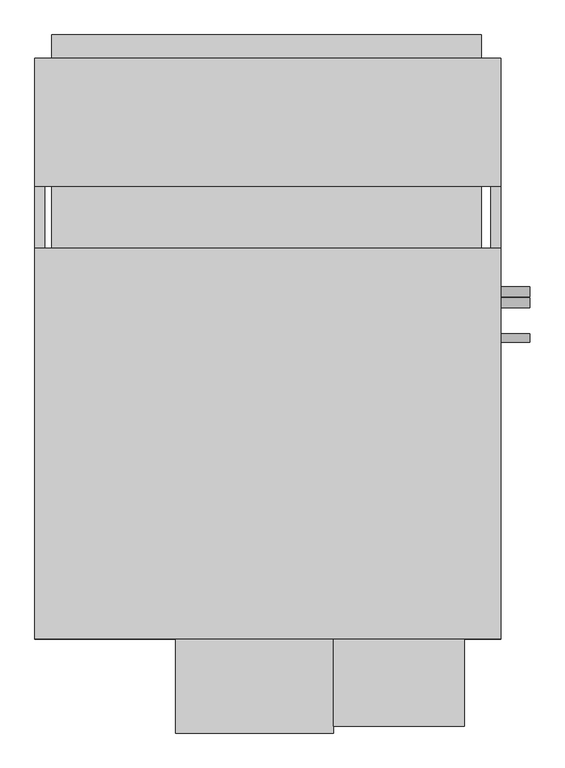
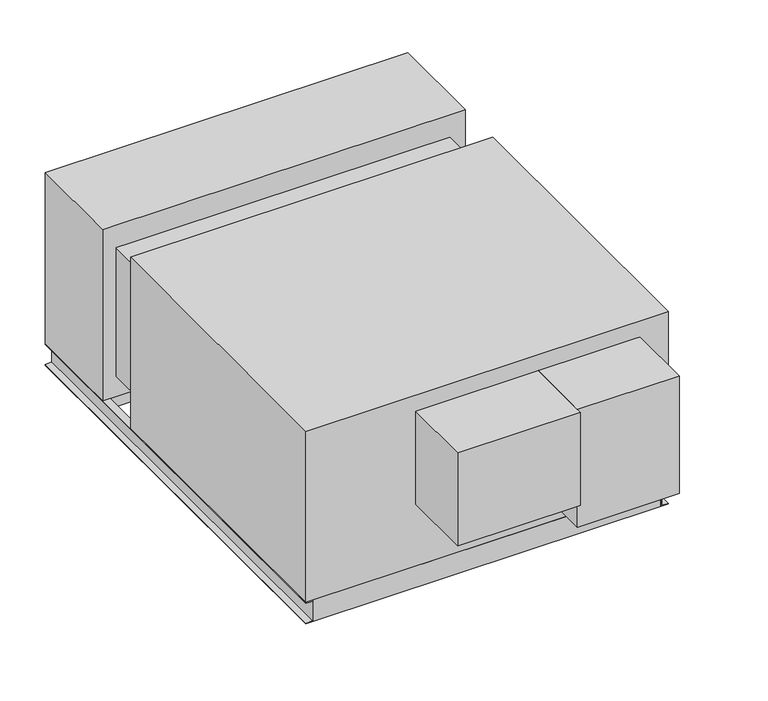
"""IFC4 building model written with IfcOpenShell, lengths in millimetres: proxy geometry, Horizontal_Direct_Drive_Blower_Coil_Unit_-_42DHA_-_CARRIER_-_2-Pipe_Cool-EHeat_NFilterR_W-MixingBox_RH_2022 : Size 20 - 460v/60Hz/3Ph - 8 Row 19.9kW LH."""

from ifc_helpers import new_model, si_unit, point, frame, frame_2d, origin, place, context, project, spatial, polyline, circle_curve, trimmed, segment, composite_curve, outline, extrude, source, transform, mapped, element, save


def mechanical_equipment_e52b0f82(model_context):
    return source(origin(), model_context, "Body", "SweptSolid", [
        extrude(outline(polyline([(101.6, 887.095), (101.6, 683.895), (-1022.35, 683.895), (-1022.35, 887.095), (101.6, 887.095)])), frame((0.0, 0.0, -670.56), z_axis=(0.0, 0.0, 1.0), x_axis=(1.0, 0.0, 0.0)), (0.0, 0.0, 1.0), 60.96),
        extrude(outline(polyline([(-1022.35, 1049.655), (101.6, 1049.655), (101.6, 988.695), (-1022.35, 988.695), (-1022.35, 1049.655)])), frame((0.0, 0.0, -279.4), z_axis=(0.0, 0.0, 1.0), x_axis=(1.0, 0.0, 0.0)), (0.0, 0.0, 1.0), 203.2),
        extrude(outline(polyline([(152.4, 988.695), (152.4, 654.05), (-1066.8, 654.05), (-1066.8, 988.695), (152.4, 988.695)])), frame((0.0, 0.0, -609.6), z_axis=(0.0, 0.0, 1.0), x_axis=(1.0, 0.0, 0.0)), (0.0, 0.0, 1.0), 609.6),
        extrude(outline(polyline([(127.0, -504.825), (127.0, -530.225), (-1041.4, -530.225), (-1041.4, -504.825), (127.0, -504.825)])), frame((0.0, 0.0, -685.8), z_axis=(0.0, 0.0, 1.0), x_axis=(1.0, 0.0, 0.0)), (0.0, 0.0, 1.0), 76.2),
        extrude(outline(polyline([(127.0, 988.695), (127.0, 963.295), (-1041.4, 963.295), (-1041.4, 988.695), (127.0, 988.695)])), frame((0.0, 0.0, -685.8), z_axis=(0.0, 0.0, 1.0), x_axis=(1.0, 0.0, 0.0)), (0.0, 0.0, 1.0), 76.2),
        extrude(outline(polyline([(-609.6, -1041.4), (-609.6, -1066.8), (-612.775, -1066.8), (-612.775, -1044.575), (-682.625, -1044.575), (-682.625, -1066.8), (-685.8, -1066.8), (-685.8, -1041.4), (-609.6, -1041.4)])), frame((0.0, -530.225, 0.0), z_axis=(0.0, 1.0, 0.0), x_axis=(0.0, 0.0, 1.0)), (0.0, 0.0, 1.0), 1518.92),
        extrude(outline(polyline([(-609.6, 127.0), (-685.8, 127.0), (-685.8, 152.4), (-682.625, 152.4), (-682.625, 130.175), (-612.775, 130.175), (-612.775, 152.4), (-609.6, 152.4), (-609.6, 127.0)])), frame((0.0, -530.225, 0.0), z_axis=(0.0, 1.0, 0.0), x_axis=(0.0, 0.0, 1.0)), (0.0, 0.0, 1.0), 1518.92),
        extrude(outline(composite_curve([segment(trimmed(circle_curve(frame_2d((377.825, -177.8)), 12.7), [point((390.525, -177.8))], [point((365.125, -177.8))], False, "CARTESIAN"), True, "CONTINUOUS"), segment(trimmed(circle_curve(frame_2d((377.825, -177.8)), 12.7), [point((365.125, -177.8))], [point((390.525, -177.8))], False, "CARTESIAN"), True, "CONTINUOUS")], self_intersect=False)), frame((152.4, 0.0, 0.0), z_axis=(1.0, 0.0, 0.0), x_axis=(0.0, 1.0, 0.0)), (0.0, 0.0, 1.0), 76.2),
        extrude(outline(composite_curve([segment(trimmed(circle_curve(frame_2d((348.9715397, -482.6)), 12.7), [point((361.6715397, -482.6))], [point((336.2715397, -482.6))], False, "CARTESIAN"), True, "CONTINUOUS"), segment(trimmed(circle_curve(frame_2d((348.9715397, -482.6)), 12.7), [point((336.2715397, -482.6))], [point((361.6715397, -482.6))], False, "CARTESIAN"), True, "CONTINUOUS")], self_intersect=False)), frame((152.4, 0.0, 0.0), z_axis=(1.0, 0.0, 0.0), x_axis=(0.0, 1.0, 0.0)), (0.0, 0.0, 1.0), 76.2),
        extrude(outline(composite_curve([segment(trimmed(circle_curve(frame_2d((257.175, -565.15)), 11.1125), [point((268.2875, -565.15))], [point((246.0625, -565.15))], False, "CARTESIAN"), True, "CONTINUOUS"), segment(trimmed(circle_curve(frame_2d((257.175, -565.15)), 11.1125), [point((246.0625, -565.15))], [point((268.2875, -565.15))], False, "CARTESIAN"), True, "CONTINUOUS")], self_intersect=False)), frame((152.4, 0.0, 0.0), z_axis=(1.0, 0.0, 0.0), x_axis=(0.0, 1.0, 0.0)), (0.0, 0.0, 1.0), 76.2),
        extrude(outline(polyline([(152.4, 492.125), (152.4, -530.225), (-1066.8, -530.225), (-1066.8, 492.125), (152.4, 492.125)])), frame((0.0, 0.0, -609.6), z_axis=(0.0, 0.0, 1.0), x_axis=(1.0, 0.0, 0.0)), (0.0, 0.0, 1.0), 609.6),
        extrude(outline(polyline([(57.15, -758.825), (-285.75, -758.825), (-285.75, -530.225), (57.15, -530.225), (57.15, -758.825)])), frame((0.0, 0.0, -476.25), z_axis=(0.0, 0.0, 1.0), x_axis=(1.0, 0.0, 0.0)), (0.0, 0.0, 1.0), 419.1),
        extrude(outline(polyline([(-1022.35, 654.05), (101.6, 654.05), (101.6, 492.125), (-1022.35, 492.125), (-1022.35, 654.05)])), frame((0.0, 0.0, -536.575), z_axis=(0.0, 0.0, 1.0), x_axis=(1.0, 0.0, 0.0)), (0.0, 0.0, 1.0), 457.2),
        extrude(outline(polyline([(-285.75, -776.2875), (-698.5, -776.2875), (-698.5, -530.225), (-285.75, -530.225), (-285.75, -776.2875)])), frame((0.0, 0.0, -387.35), z_axis=(0.0, 0.0, 1.0), x_axis=(1.0, 0.0, 0.0)), (0.0, 0.0, 1.0), 330.2),
    ])


if __name__ == "__main__":
    model = new_model("IFC4")
    model_context = context("Model", 3, world=origin())
    ifc_project = project(units=[si_unit("LENGTHUNIT", "METRE", prefix="MILLI")], contexts=[model_context])
    site = spatial("IfcSite", under=ifc_project)
    building = spatial("IfcBuilding", under=site)
    placement = place(None, origin())
    mechanical_equipment_shape = mechanical_equipment_e52b0f82(model_context)
    element("IfcBuildingElementProxy", 1, Name="Horizontal_Direct_Drive_Blower_Coil_Unit_-_42DHA_-_CARRIER_-_2-Pipe_Cool-EHeat_NFilterR_W-MixingBox_RH_2022 : Size 20 - 460v/60Hz/3Ph - 8 Row 19.9kW LH", ObjectType="Horizontal_Direct_Drive_Blower_Coil_Unit_-_42DHA_-_CARRIER_-_2-Pipe_Cool-EHeat_NFilterR_W-MixingBox_RH_2022 : Size 20 - 460v/60Hz/3Ph - 8 Row 19.9kW LH", at=placement, inside=building, context=model_context, shape_type="MappedRepresentation", body=[
        mapped(mechanical_equipment_shape, transform((0.0, 0.0, 0.0), x_axis=(1.0, 0.0, 0.0), y_axis=(0.0, 1.0, 0.0), z_axis=(0.0, 0.0, 1.0))),
    ])
    save(model, "model.ifc")
